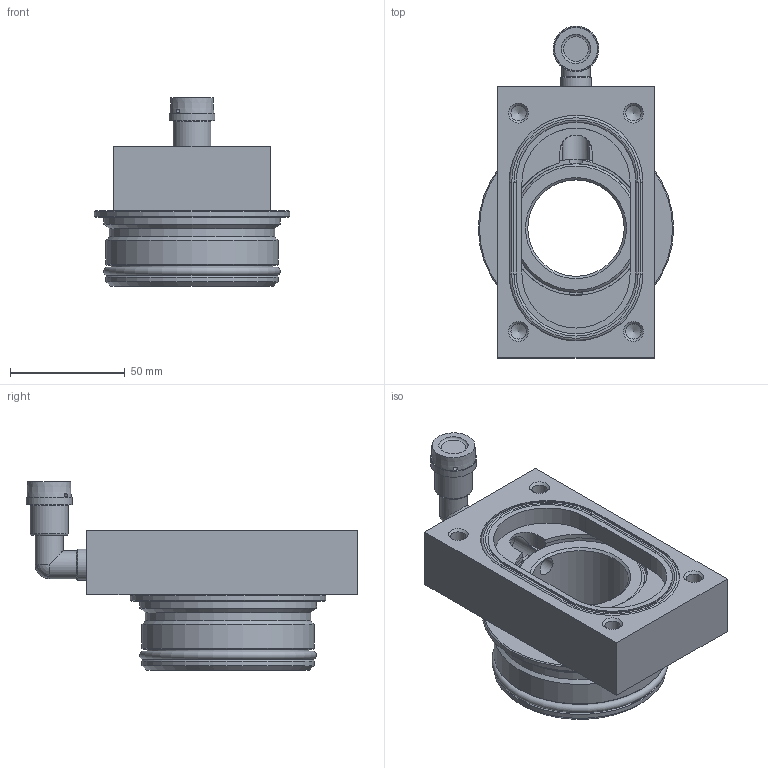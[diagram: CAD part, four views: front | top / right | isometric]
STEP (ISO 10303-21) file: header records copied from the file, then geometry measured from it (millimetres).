
FILE_DESCRIPTION(/* description */ ('Unknown'),/* implementation_level */ '2;1');
FILE_NAME(/* name */ 'KCHP',/* time_stamp */ '2024-11-28T10:32:34+01:00',/* author */ ('Unknown'),/* organization */ ('Unknown'),/* preprocessor_version */ 'ST-DEVELOPER v19.4',/* originating_system */ 'Solid Edge',/* authorisation */ 'Unknown');
FILE_SCHEMA (('AUTOMOTIVE_DESIGN {1 0 10303 214 3 1 1}'));
Length unit declared in the file: millimetre
Products named in the file (1): KCHP
Bounding box: 85 x 144.4 x 82.02 mm (x, y, z)
Volume: 234753.7 mm3; surface area: 55525.1 mm2
Topology: 1 solids, 1 shells, 141 faces, 349 edges, 217 vertices
Faces by surface type: cylinder 53, plane 48, cone 29, torus 10, sphere 1
Full cylindrical faces by diameter (mm): 1.8 x1, 6.647 x4, 7.7 x1, 8 x6, 11.445 x3, 12.2 x2, 13.5 x1, 16.5 x1, 20 x1, 22 x1, 42 x1, 60 x1, 70.4 x2, 72 x1, 75 x2, 77 x1, 85 x1
Entity records: 4574 total; most frequent: CARTESIAN_POINT 678, DIRECTION 649, ORIENTED_EDGE 482, AXIS2_PLACEMENT_3D 284, EDGE_CURVE 241, FACE_BOUND 225, EDGE_LOOP 218, VERTEX_POINT 180
